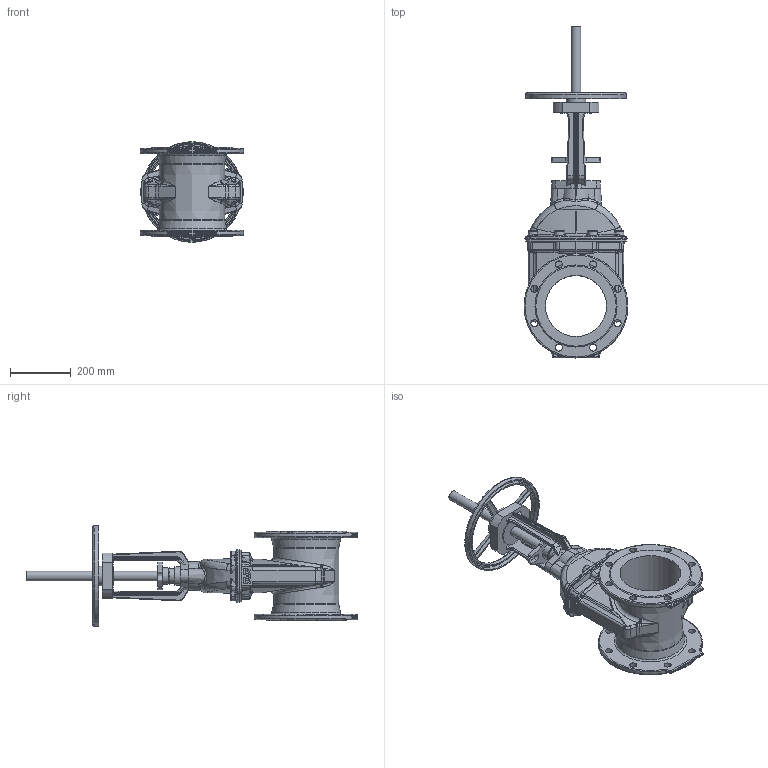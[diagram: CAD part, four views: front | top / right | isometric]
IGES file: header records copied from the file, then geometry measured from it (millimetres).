
Start section: SolidWorks IGES file using analytic representation for surfaces
Global section: file name: \\avksan2\techshare\PBM outline export from Enovia\O_21_34_DN200_40XXXXX open_AA0.igs; native system: SolidWorks 2012; preprocessor: SolidWorks 2012; author: pbm; date: 200212.102020; units: millimetre
Bounding box: 340 x 1088.37 x 329.91 mm (x, y, z)
Surface area: 1235403.1 mm2 (no closed solid volume)
Topology: 0 solids, 0 shells, 848 faces, 4410 edges, 4298 vertices
Faces by surface type: revolution 428, bspline 420
